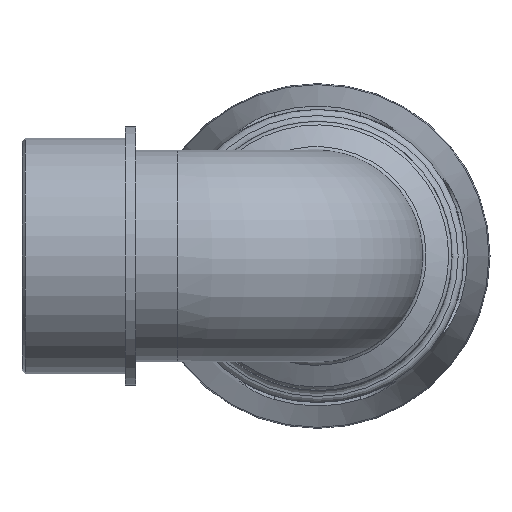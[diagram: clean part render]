
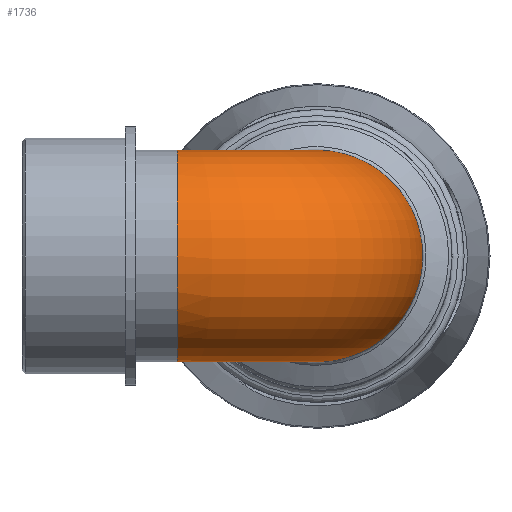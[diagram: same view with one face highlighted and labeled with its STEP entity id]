
A CAD part, left-side view. The second image highlights one B-rep face of the part: STEP entity #1736.
In plain terms, the highlighted toroidal (fillet/blend) face has major radius 28.465 mm and minor radius 21.511 mm.
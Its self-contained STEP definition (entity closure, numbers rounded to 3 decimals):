
#80=TOROIDAL_SURFACE('',#1855,28.465,21.511);
#90=FACE_BOUND('',#436,.T.);
#319=FACE_OUTER_BOUND('',#435,.T.);
#435=EDGE_LOOP('',(#1149));
#436=EDGE_LOOP('',(#1150));
#557=B_SPLINE_CURVE_WITH_KNOTS('',3,(#2640,#2641,#2642,#2643,#2644,#2645,
#2646,#2647,#2648,#2649,#2650,#2651,#2652,#2653,#2654,#2655,#2656,#2657),
 .UNSPECIFIED.,.T.,.F.,(4,1,1,1,1,1,1,1,1,1,1,1,1,1,1,4),(-3.142,
-2.693,-2.244,-1.795,-1.346,
-0.898,-0.449,0.15,0.449,
1.047,1.346,1.795,2.244,2.693,
2.917,3.142),.UNSPECIFIED.);
#631=CIRCLE('',#1850,21.511);
#721=VERTEX_POINT('',#2638);
#728=VERTEX_POINT('',#2891);
#882=EDGE_CURVE('',#721,#721,#557,.T.);
#892=EDGE_CURVE('',#728,#728,#631,.T.);
#1149=ORIENTED_EDGE('',*,*,#882,.F.);
#1150=ORIENTED_EDGE('',*,*,#892,.T.);
#1736=ADVANCED_FACE('',(#319,#90),#80,.T.);
#1850=AXIS2_PLACEMENT_3D('',#2892,#2066,#2067);
#1855=AXIS2_PLACEMENT_3D('',#2900,#2076,#2077);
#2066=DIRECTION('center_axis',(0.,-1.,0.));
#2067=DIRECTION('ref_axis',(-1.,0.,0.));
#2076=DIRECTION('center_axis',(0.,0.,1.));
#2077=DIRECTION('ref_axis',(1.,0.,0.));
#2638=CARTESIAN_POINT('',(23.855,23.259,0.));
#2640=CARTESIAN_POINT('Ctrl Pts',(23.854,23.261,0.004));
#2641=CARTESIAN_POINT('Ctrl Pts',(23.855,23.261,3.25));
#2642=CARTESIAN_POINT('Ctrl Pts',(23.927,21.152,9.679));
#2643=CARTESIAN_POINT('Ctrl Pts',(24.124,14.585,17.262));
#2644=CARTESIAN_POINT('Ctrl Pts',(24.225,5.572,21.628));
#2645=CARTESIAN_POINT('Ctrl Pts',(24.283,-4.449,21.747));
#2646=CARTESIAN_POINT('Ctrl Pts',(24.311,-13.513,17.526));
#2647=CARTESIAN_POINT('Ctrl Pts',(24.328,-20.553,8.889));
#2648=CARTESIAN_POINT('Ctrl Pts',(24.33,-22.088,-1.19));
#2649=CARTESIAN_POINT('Ctrl Pts',(24.324,-18.804,-11.675));
#2650=CARTESIAN_POINT('Ctrl Pts',(24.309,-12.578,-18.251));
#2651=CARTESIAN_POINT('Ctrl Pts',(24.276,-3.326,-21.731));
#2652=CARTESIAN_POINT('Ctrl Pts',(24.225,5.567,-21.627));
#2653=CARTESIAN_POINT('Ctrl Pts',(24.123,14.587,-17.269));
#2654=CARTESIAN_POINT('Ctrl Pts',(23.963,20.058,-10.926));
#2655=CARTESIAN_POINT('Ctrl Pts',(23.869,22.735,-4.882));
#2656=CARTESIAN_POINT('Ctrl Pts',(23.853,23.261,-1.62));
#2657=CARTESIAN_POINT('Ctrl Pts',(23.854,23.261,0.004));
#2891=CARTESIAN_POINT('',(21.511,28.465,0.));
#2892=CARTESIAN_POINT('Origin',(0.,28.465,0.));
#2900=CARTESIAN_POINT('Origin',(28.465,28.465,0.));
